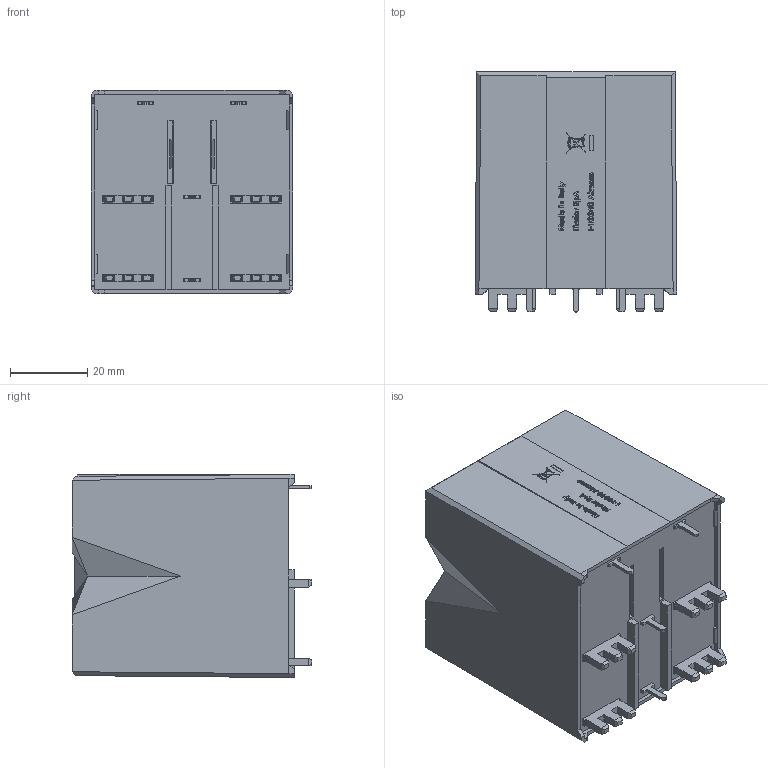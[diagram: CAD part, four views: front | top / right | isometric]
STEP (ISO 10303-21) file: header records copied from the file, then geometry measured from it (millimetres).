
FILE_DESCRIPTION(/* description */ ('Unknown'),/* implementation_level */ '2;1');
FILE_NAME(/* name */ '6823',/* time_stamp */ '2022-07-07T10:33:41+02:00',/* author */ ('Unknown'),/* organization */ ('Unknown'),/* preprocessor_version */ 'ST-DEVELOPER v16.7',/* originating_system */ 'DEX',/* authorisation */ $);
FILE_SCHEMA (('AUTOMOTIVE_DESIGN {1 0 10303 214 3 1 1}'));
Length unit declared in the file: millimetre
Products named in the file (1): 6823
Bounding box: 52.2 x 62 x 52.5 mm (x, y, z)
Surface area: 22238.5 mm2 (no closed solid volume)
Topology: 0 solids, 15 shells, 727 faces, 1991 edges, 1337 vertices
Faces by surface type: plane 595, bspline 70, cylinder 58, cone 2, torus 2
Full cylindrical faces by diameter (mm): 0.252 x1, 0.374 x2, 1.5 x2
Entity records: 25251 total; most frequent: CARTESIAN_POINT 7289, ORIENTED_EDGE 3710, DIRECTION 3261, EDGE_CURVE 1959, LINE 1697, VECTOR 1697, VERTEX_POINT 1329, EDGE_LOOP 824
